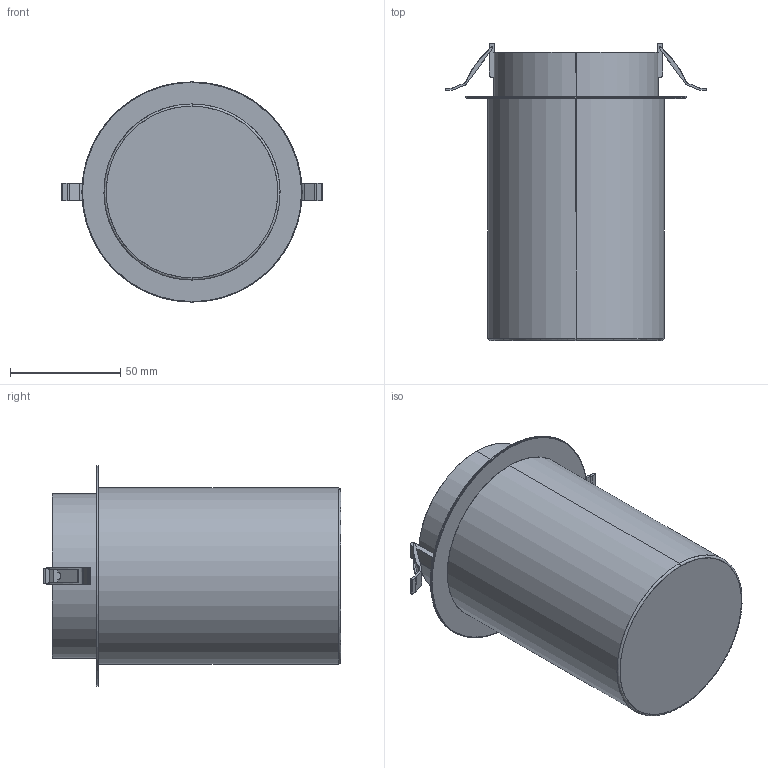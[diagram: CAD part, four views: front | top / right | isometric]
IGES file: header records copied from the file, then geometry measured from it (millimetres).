
Start section: SolidWorks IGES file using analytic representation for surfaces
Global section: file name: C:\Users\Agustin\Desktop\ANGELA\2026\ARQUITECTURAL\BALT\3D\BALT_T0306.IGS; native system: SolidWorks 2023; preprocessor: SolidWorks 2023; author: Agustin; date: 260416.131416; units: millimetre
Bounding box: 118.33 x 135.1 x 100 mm (x, y, z)
Surface area: 89990.8 mm2 (no closed solid volume)
Topology: 0 solids, 0 shells, 103 faces, 1504 edges, 1504 vertices
Faces by surface type: bspline 63, revolution 40
